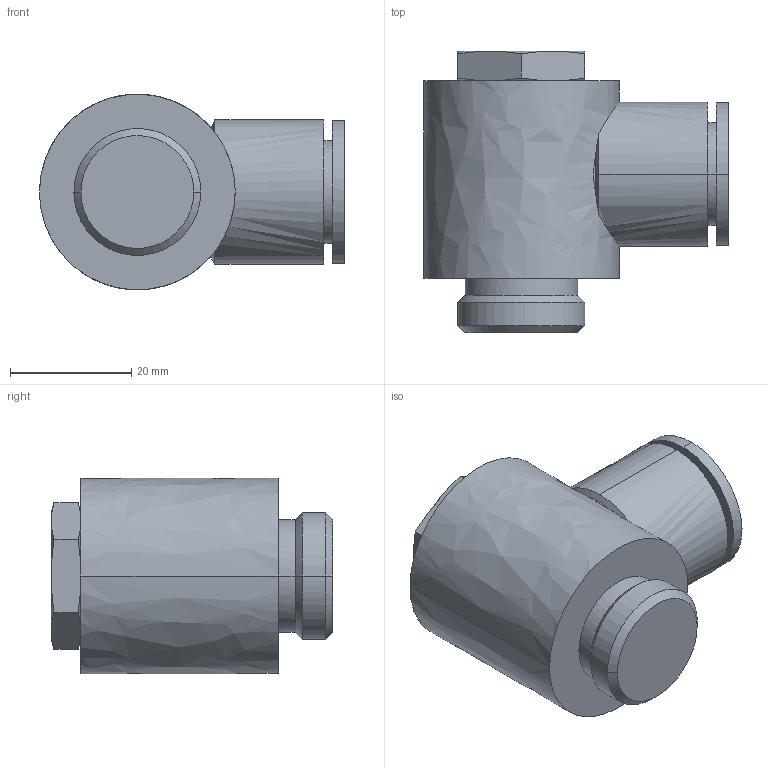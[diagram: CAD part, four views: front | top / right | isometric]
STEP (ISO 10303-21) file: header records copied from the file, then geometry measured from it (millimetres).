
FILE_DESCRIPTION (( 'STEP AP214' ), '1' );
FILE_NAME ('KQ2V16-G04A.STEP', '2023-03-09T03:03:49', ( 'Windows User' ), ( 'P R C' ), 'SwSTEP 2.0', 'SolidWorks 2019', '' );
FILE_SCHEMA (( 'AUTOMOTIVE_DESIGN' ));
Length unit declared in the file: millimetre
Products named in the file (1): KQ2V16-G04A
Bounding box: 50.35 x 46.5 x 32.3 mm (x, y, z)
Volume: 35470 mm3; surface area: 8930 mm2
Topology: 1 solids, 1 shells, 43 faces, 99 edges, 64 vertices
Faces by surface type: bspline 28, plane 15
Entity records: 2049 total; most frequent: CARTESIAN_POINT 1376, ORIENTED_EDGE 198, EDGE_CURVE 99, B_SPLINE_CURVE_WITH_KNOTS 70, VERTEX_POINT 64, EDGE_LOOP 49, FACE_OUTER_BOUND 43, ADVANCED_FACE 43
